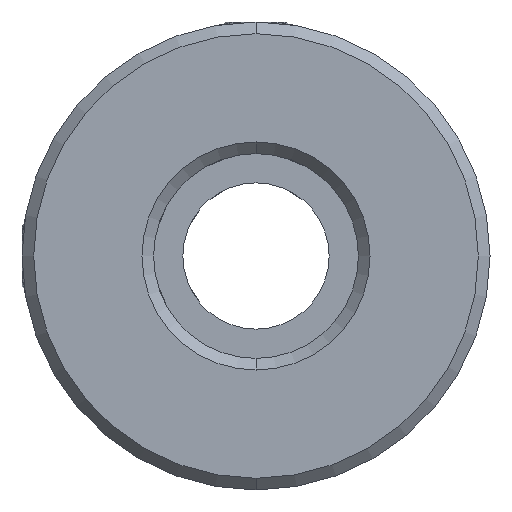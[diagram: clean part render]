
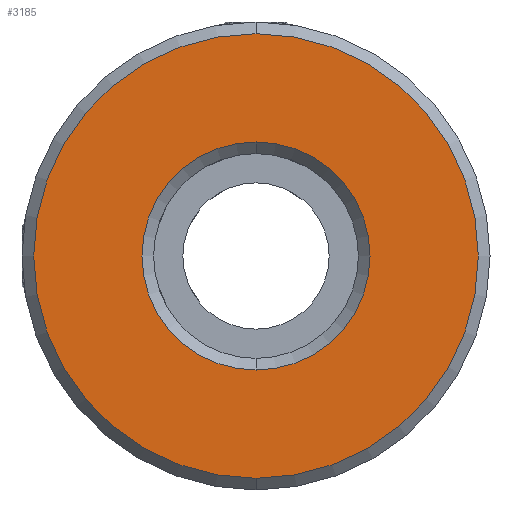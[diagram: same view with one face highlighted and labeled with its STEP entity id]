
A CAD part, front view. The second image highlights one B-rep face of the part: STEP entity #3185.
In plain terms, the highlighted planar face has unit normal (0, -1, 0).
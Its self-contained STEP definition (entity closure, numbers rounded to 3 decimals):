
#62 = DIRECTION ( 'NONE',  ( 0., -1., 0. ) ) ;
#130 = DIRECTION ( 'NONE',  ( 0., 0., 1. ) ) ;
#135 = EDGE_CURVE ( 'NONE', #636, #3471, #2356, .T. ) ;
#149 = DIRECTION ( 'NONE',  ( 0., 0., 1. ) ) ;
#227 = CARTESIAN_POINT ( 'NONE',  ( -10.188, -0.277, 0.046 ) ) ;
#291 = CIRCLE ( 'NONE', #797, 15.2 ) ;
#348 = AXIS2_PLACEMENT_3D ( 'NONE', #3390, #3345, #2539 ) ;
#387 = CARTESIAN_POINT ( 'NONE',  ( -10.188, -0.277, 0.046 ) ) ;
#455 = ORIENTED_EDGE ( 'NONE', *, *, #135, .T. ) ;
#483 = FACE_BOUND ( 'NONE', #3110, .T. ) ;
#499 = EDGE_CURVE ( 'NONE', #3471, #636, #914, .T. ) ;
#534 = EDGE_LOOP ( 'NONE', ( #1979, #613 ) ) ;
#613 = ORIENTED_EDGE ( 'NONE', *, *, #2601, .T. ) ;
#636 = VERTEX_POINT ( 'NONE', #870 ) ;
#797 = AXIS2_PLACEMENT_3D ( 'NONE', #387, #62, #130 ) ;
#799 = ORIENTED_EDGE ( 'NONE', *, *, #499, .T. ) ;
#870 = CARTESIAN_POINT ( 'NONE',  ( -10.188, -0.277, 7.846 ) ) ;
#896 = CARTESIAN_POINT ( 'NONE',  ( -10.188, -0.277, -15.154 ) ) ;
#914 = CIRCLE ( 'NONE', #1458, 7.8 ) ;
#1257 = CARTESIAN_POINT ( 'NONE',  ( -10.188, -0.277, 15.246 ) ) ;
#1411 = PLANE ( 'NONE',  #1622 ) ;
#1426 = DIRECTION ( 'NONE',  ( 0., 0., 1. ) ) ;
#1458 = AXIS2_PLACEMENT_3D ( 'NONE', #2514, #2757, #149 ) ;
#1622 = AXIS2_PLACEMENT_3D ( 'NONE', #2575, #3536, #3463 ) ;
#1696 = CARTESIAN_POINT ( 'NONE',  ( -10.188, -0.277, -7.754 ) ) ;
#1979 = ORIENTED_EDGE ( 'NONE', *, *, #2288, .T. ) ;
#2288 = EDGE_CURVE ( 'NONE', #2831, #3701, #2510, .T. ) ;
#2356 = CIRCLE ( 'NONE', #3282, 7.8 ) ;
#2510 = CIRCLE ( 'NONE', #348, 15.2 ) ;
#2514 = CARTESIAN_POINT ( 'NONE',  ( -10.188, -0.277, 0.046 ) ) ;
#2539 = DIRECTION ( 'NONE',  ( 0., 0., 1. ) ) ;
#2575 = CARTESIAN_POINT ( 'NONE',  ( -10.188, -0.277, 0.046 ) ) ;
#2601 = EDGE_CURVE ( 'NONE', #3701, #2831, #291, .T. ) ;
#2757 = DIRECTION ( 'NONE',  ( 0., 1., 0. ) ) ;
#2831 = VERTEX_POINT ( 'NONE', #1257 ) ;
#2890 = DIRECTION ( 'NONE',  ( 0., 1., 0. ) ) ;
#3086 = FACE_OUTER_BOUND ( 'NONE', #534, .T. ) ;
#3110 = EDGE_LOOP ( 'NONE', ( #799, #455 ) ) ;
#3185 = ADVANCED_FACE ( 'NONE', ( #3086, #483 ), #1411, .F. ) ;
#3282 = AXIS2_PLACEMENT_3D ( 'NONE', #227, #2890, #1426 ) ;
#3345 = DIRECTION ( 'NONE',  ( 0., -1., 0. ) ) ;
#3390 = CARTESIAN_POINT ( 'NONE',  ( -10.188, -0.277, 0.046 ) ) ;
#3463 = DIRECTION ( 'NONE',  ( 0., 0., 1. ) ) ;
#3471 = VERTEX_POINT ( 'NONE', #1696 ) ;
#3536 = DIRECTION ( 'NONE',  ( 0., 1., 0. ) ) ;
#3701 = VERTEX_POINT ( 'NONE', #896 ) ;
